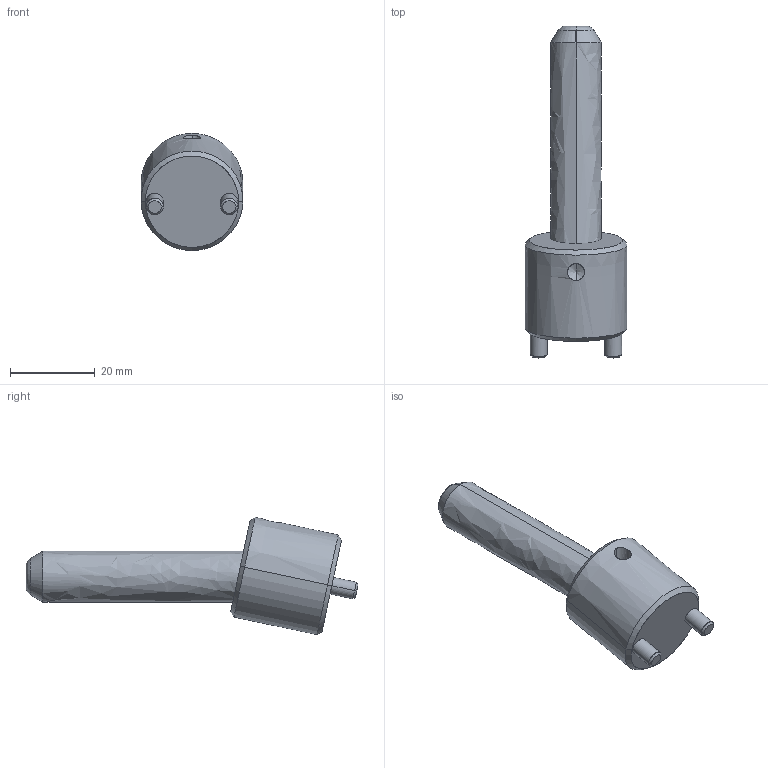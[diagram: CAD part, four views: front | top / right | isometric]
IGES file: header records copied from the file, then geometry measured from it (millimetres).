
Start section: START RECORD GO HERE.
Global section: file name: CI1212050.igs; native system: DASSAULT SYSTEMES CATIA V5 R20 - www.3ds.com; preprocessor: CATIA Version 5 Release 20 ; author: r.borello; organization: CFTORINO; date: 20190620.160409; units: millimetre
Bounding box: 24 x 78.22 x 27.63 mm (x, y, z)
Surface area: 6084.7 mm2 (no closed solid volume)
Topology: 0 solids, 0 shells, 39 faces, 162 edges, 160 vertices
Faces by surface type: revolution 32, plane 7
